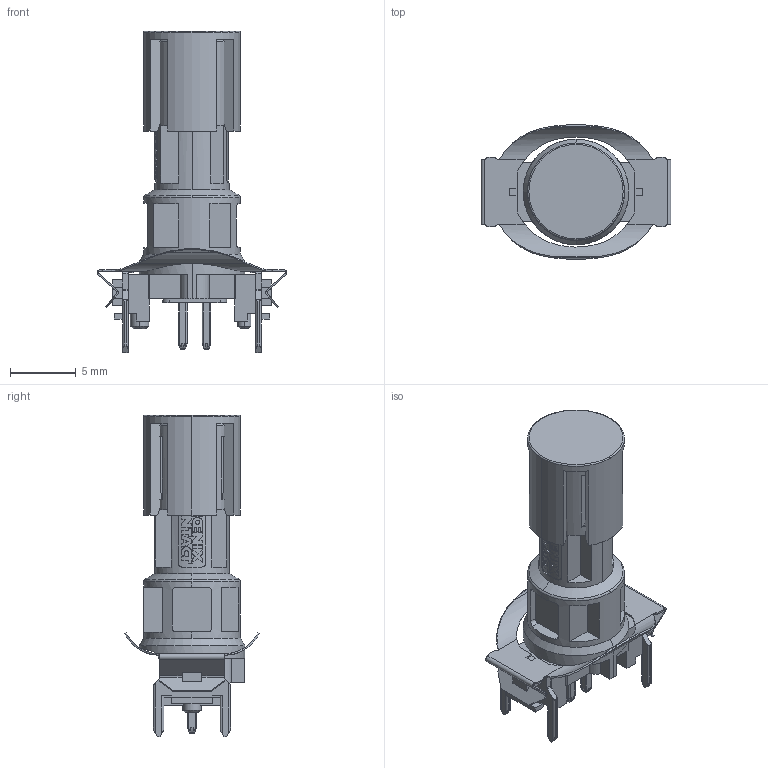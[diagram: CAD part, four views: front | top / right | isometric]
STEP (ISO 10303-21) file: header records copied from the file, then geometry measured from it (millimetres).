
FILE_DESCRIPTION(('Creo Elements/Direct Modeling STEP Export'),'2;1');
FILE_NAME('C:/temp/JobSpoolerServerData/JobServer Files/d0928c0b-6771-4051-b8f4-5b19cfb5f16c/work/output/model.stp','2020-10-23T11:47:44',(''),(''),'Creo Elements/Direct Modeling STEP processor for AP214 (Solid Model)','Creo Elements/Direct Modeling 20.1A 29-Sep-2018 (C) Parametric Technology GmbH','');
FILE_SCHEMA(('AUTOMOTIVE_DESIGN { 1 0 10303 214 1 1 1 1 }'));
Length unit declared in the file: millimetre
Products named in the file (3): SPE-M8MSM-180-HOUSING; 0162034-00_FR_PICK_AND_PLACE_PAD_M8_SMD_PxCCT.stp; SPE-M8MSM-180
Assembly tree (2 placements, depth 2):
  SPE-M8MSM-180
    0162034-00_FR_PICK_AND_PLACE_PAD_M8_SMD_PxCCT.stp
    SPE-M8MSM-180-HOUSING
Bounding box: 14.48 x 10.26 x 24.51 mm (x, y, z)
Volume: 697.1 mm3; surface area: 1376 mm2
Topology: 2 solids, 2 shells, 750 faces, 2044 edges, 1333 vertices
Faces by surface type: plane 426, cylinder 161, bspline 76, cone 32, extrusion 31, torus 24
Entity records: 40718 total; most frequent: CARTESIAN_POINT 16868, ORIENTED_EDGE 4088, DIRECTION 3250, EDGE_CURVE 2044, VERTEX_POINT 1333, VECTOR 1190, LINE 1129, AXIS2_PLACEMENT_3D 1030
